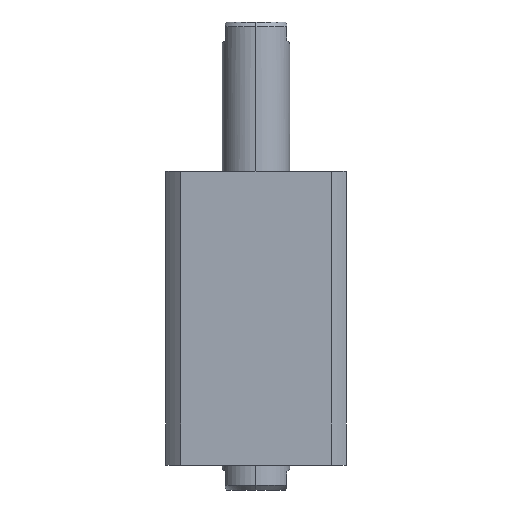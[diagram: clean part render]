
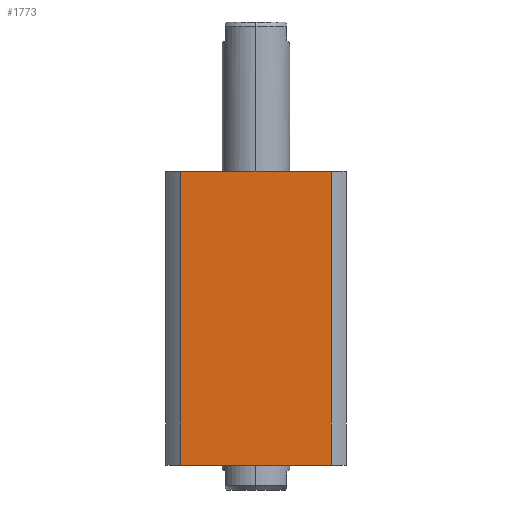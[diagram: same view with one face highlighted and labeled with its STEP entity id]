
A CAD part, left-side view. The second image highlights one B-rep face of the part: STEP entity #1773.
In plain terms, the highlighted planar face has unit normal (-1, 0, 0).
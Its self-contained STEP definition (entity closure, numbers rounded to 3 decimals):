
#41 = VERTEX_POINT ( 'NONE', #1187 ) ;
#398 = VECTOR ( 'NONE', #7881, 1000. ) ;
#445 = ORIENTED_EDGE ( 'NONE', *, *, #2058, .T. ) ;
#1064 = LINE ( 'NONE', #2590, #4846 ) ;
#1187 = CARTESIAN_POINT ( 'NONE',  ( -40., 33.226, -65. ) ) ;
#1489 = CARTESIAN_POINT ( 'NONE',  ( -40., 33.226, 65. ) ) ;
#1624 = ORIENTED_EDGE ( 'NONE', *, *, #5176, .F. ) ;
#1768 = DIRECTION ( 'NONE',  ( 0., -1., 0. ) ) ;
#1773 = ADVANCED_FACE ( 'NONE', ( #3093 ), #3063, .F. ) ;
#1992 = EDGE_CURVE ( 'NONE', #41, #3874, #9252, .T. ) ;
#2058 = EDGE_CURVE ( 'NONE', #5874, #41, #2875, .T. ) ;
#2448 = CARTESIAN_POINT ( 'NONE',  ( -40., 33.226, 65. ) ) ;
#2590 = CARTESIAN_POINT ( 'NONE',  ( -40., -33.226, 65. ) ) ;
#2694 = DIRECTION ( 'NONE',  ( 0., 0., -1. ) ) ;
#2875 = LINE ( 'NONE', #7910, #398 ) ;
#3063 = PLANE ( 'NONE',  #8352 ) ;
#3093 = FACE_OUTER_BOUND ( 'NONE', #5384, .T. ) ;
#3123 = CARTESIAN_POINT ( 'NONE',  ( -40., -33.226, 65. ) ) ;
#3675 = VECTOR ( 'NONE', #1768, 1000. ) ;
#3874 = VERTEX_POINT ( 'NONE', #7394 ) ;
#4075 = CARTESIAN_POINT ( 'NONE',  ( -40., 33.226, 65. ) ) ;
#4277 = LINE ( 'NONE', #4075, #3675 ) ;
#4846 = VECTOR ( 'NONE', #2694, 1000. ) ;
#5176 = EDGE_CURVE ( 'NONE', #5874, #7258, #4277, .T. ) ;
#5298 = DIRECTION ( 'NONE',  ( 0., 1., 0. ) ) ;
#5384 = EDGE_LOOP ( 'NONE', ( #5795, #6840, #1624, #445 ) ) ;
#5547 = DIRECTION ( 'NONE',  ( 0., -1., 0. ) ) ;
#5795 = ORIENTED_EDGE ( 'NONE', *, *, #1992, .T. ) ;
#5874 = VERTEX_POINT ( 'NONE', #2448 ) ;
#6840 = ORIENTED_EDGE ( 'NONE', *, *, #9801, .F. ) ;
#7258 = VERTEX_POINT ( 'NONE', #3123 ) ;
#7394 = CARTESIAN_POINT ( 'NONE',  ( -40., -33.226, -65. ) ) ;
#7485 = VECTOR ( 'NONE', #5547, 1000. ) ;
#7881 = DIRECTION ( 'NONE',  ( 0., 0., -1. ) ) ;
#7910 = CARTESIAN_POINT ( 'NONE',  ( -40., 33.226, 65. ) ) ;
#8352 = AXIS2_PLACEMENT_3D ( 'NONE', #1489, #9026, #5298 ) ;
#9026 = DIRECTION ( 'NONE',  ( 1., 0., 0. ) ) ;
#9252 = LINE ( 'NONE', #9414, #7485 ) ;
#9414 = CARTESIAN_POINT ( 'NONE',  ( -40., 33.226, -65. ) ) ;
#9801 = EDGE_CURVE ( 'NONE', #7258, #3874, #1064, .T. ) ;
